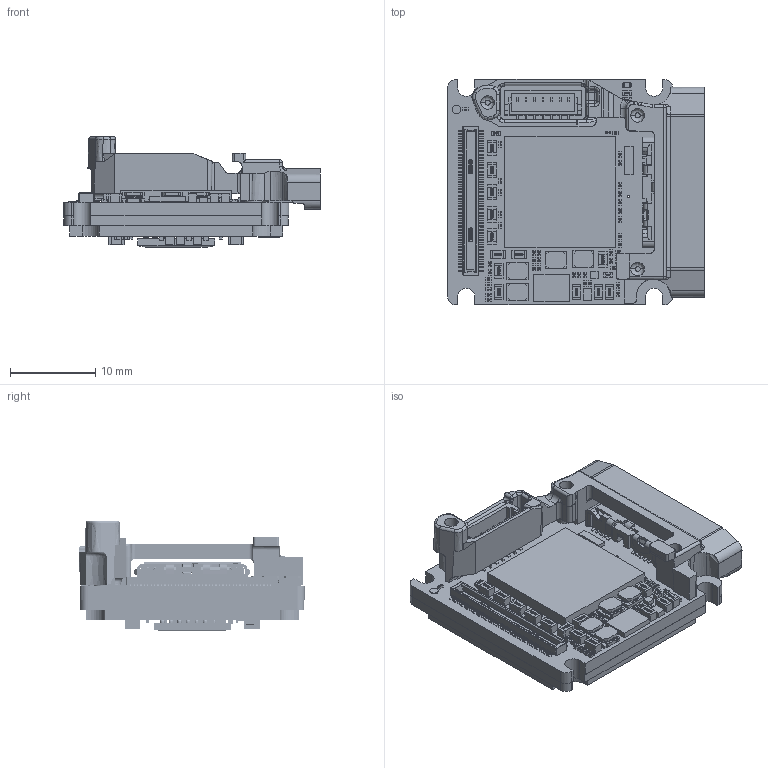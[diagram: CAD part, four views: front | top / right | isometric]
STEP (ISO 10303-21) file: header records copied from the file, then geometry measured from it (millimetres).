
FILE_DESCRIPTION (( 'STEP AP214' ), '1' );
FILE_NAME ('Alvium-USB90-Bare-Board-AR0135CS.STEP', '2022-10-24T12:38:31', ( '' ), ( '' ), 'SwSTEP 2.0', 'SolidWorks 2021', '' );
FILE_SCHEMA (( 'AUTOMOTIVE_DESIGN' ));
Length unit declared in the file: millimetre
Products named in the file (1): Alvium-USB90-Bare-Board-AR0135CS
Bounding box: 30.1 x 26.45 x 12.97 mm (x, y, z)
Volume: 3729.6 mm3; surface area: 5051.6 mm2
Topology: 136 solids, 136 shells, 9279 faces, 23663 edges, 15313 vertices
Faces by surface type: plane 4637, bspline 3517, cylinder 913, torus 158, cone 38, sphere 16
Entity records: 579532 total; most frequent: CARTESIAN_POINT 275453, ORIENTED_EDGE 47296, DIRECTION 29968, EDGE_CURVE 23648, VERTEX_POINT 15313, LINE 14282, VECTOR 14282, EDGE_LOOP 9995
